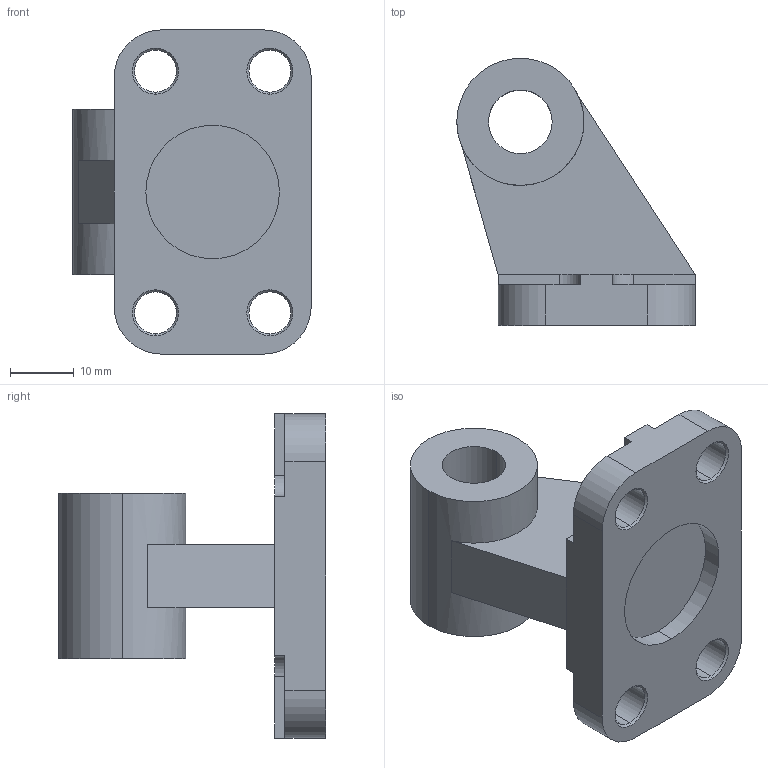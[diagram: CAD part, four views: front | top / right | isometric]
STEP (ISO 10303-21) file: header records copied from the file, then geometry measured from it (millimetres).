
FILE_DESCRIPTION (( 'STEP AP203' ), '1' );
FILE_NAME ('Lagerbock_starr_LB-AB7-3260_536383.step', '2021-07-09T14:22:20', ( '' ), ( '' ), 'SwSTEP 2.0', 'SolidWorks 2020', '' );
FILE_SCHEMA (( 'CONFIG_CONTROL_DESIGN' ));
Length unit declared in the file: millimetre
Products named in the file (1): Lagerbock_starr_LB-AB7-3260_536383
Bounding box: 37.5 x 42 x 51 mm (x, y, z)
Volume: 20309.4 mm3; surface area: 8517.9 mm2
Topology: 1 solids, 1 shells, 64 faces, 167 edges, 106 vertices
Faces by surface type: plane 26, cylinder 22, cone 16
Entity records: 2068 total; most frequent: DIRECTION 365, CARTESIAN_POINT 338, ORIENTED_EDGE 334, EDGE_CURVE 167, AXIS2_PLACEMENT_3D 133, VERTEX_POINT 106, VECTOR 99, LINE 99
